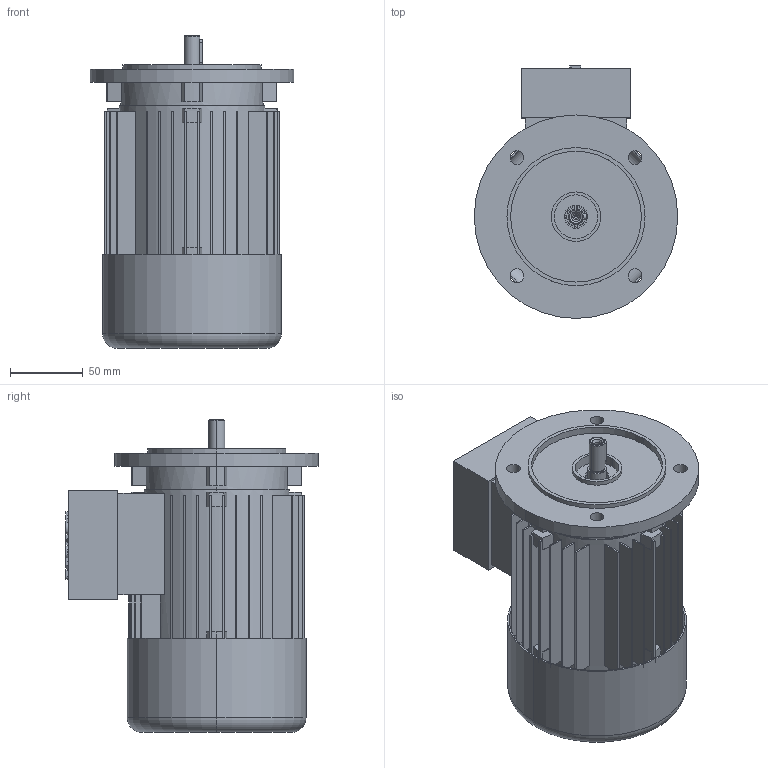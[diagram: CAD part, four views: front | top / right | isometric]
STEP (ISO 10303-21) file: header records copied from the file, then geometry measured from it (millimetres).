
FILE_DESCRIPTION (( 'STEP AP214' ), '1' );
FILE_NAME ('20.18268-B 5AZ 63 B5 STANDK.STEP', '2018-05-22T13:26:59', ( '' ), ( '' ), 'SwSTEP 2.0', 'SolidWorks 2017', '' );
FILE_SCHEMA (( 'AUTOMOTIVE_DESIGN' ));
Length unit declared in the file: millimetre
Products named in the file (1): 20.18268-B 5AZ 63 B5 STANDK
Bounding box: 140 x 174 x 215 mm (x, y, z)
Volume: 732940.5 mm3; surface area: 322540.5 mm2
Topology: 7 solids, 7 shells, 454 faces, 1167 edges, 771 vertices
Faces by surface type: plane 301, cylinder 124, cone 16, bspline 9, torus 4
Entity records: 14042 total; most frequent: CARTESIAN_POINT 2592, DIRECTION 2413, ORIENTED_EDGE 2330, EDGE_CURVE 1165, AXIS2_PLACEMENT_3D 832, VERTEX_POINT 771, LINE 749, VECTOR 749
